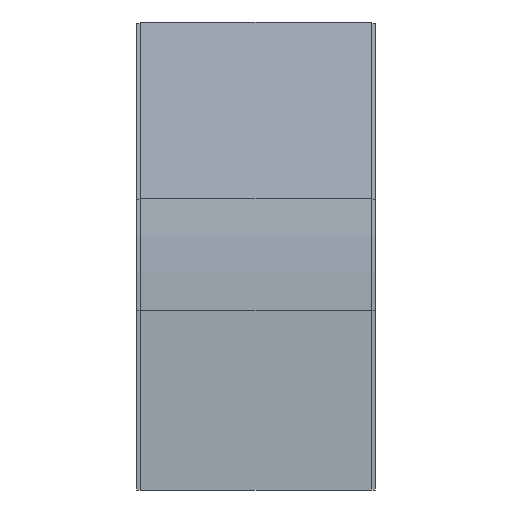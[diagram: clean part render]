
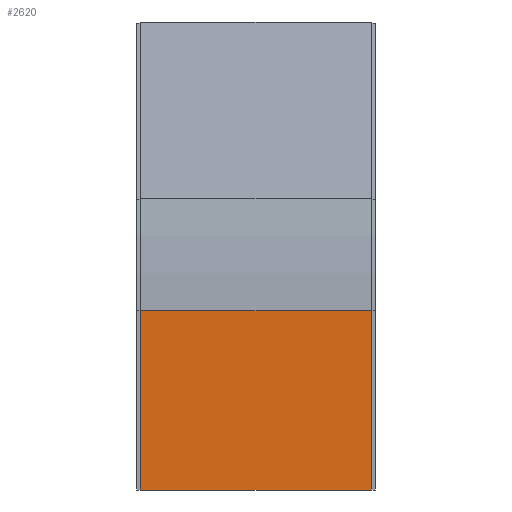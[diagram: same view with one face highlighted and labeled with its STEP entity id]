
A CAD part, front view. The second image highlights one B-rep face of the part: STEP entity #2620.
In plain terms, the highlighted planar face has unit normal (0, -1, 0).
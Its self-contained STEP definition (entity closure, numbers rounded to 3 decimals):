
#50 = EDGE_CURVE ( 'NONE', #2106, #1245, #174, .T. ) ;
#174 = LINE ( 'NONE', #1595, #2701 ) ;
#295 = FACE_OUTER_BOUND ( 'NONE', #3057, .T. ) ;
#333 = DIRECTION ( 'NONE',  ( 0., 0., -1. ) ) ;
#366 = CARTESIAN_POINT ( 'NONE',  ( -96.65, -42., 150. ) ) ;
#500 = AXIS2_PLACEMENT_3D ( 'NONE', #964, #1953, #2224 ) ;
#717 = VERTEX_POINT ( 'NONE', #805 ) ;
#764 = ORIENTED_EDGE ( 'NONE', *, *, #782, .T. ) ;
#782 = EDGE_CURVE ( 'NONE', #717, #1245, #2086, .T. ) ;
#799 = EDGE_CURVE ( 'NONE', #990, #2106, #2511, .T. ) ;
#805 = CARTESIAN_POINT ( 'NONE',  ( -96.65, -42., 150. ) ) ;
#964 = CARTESIAN_POINT ( 'NONE',  ( -96.65, -42., 150. ) ) ;
#982 = LINE ( 'NONE', #1115, #1594 ) ;
#990 = VERTEX_POINT ( 'NONE', #2750 ) ;
#1038 = DIRECTION ( 'NONE',  ( 0., 0., -1. ) ) ;
#1058 = DIRECTION ( 'NONE',  ( -1., 0., 0. ) ) ;
#1076 = ORIENTED_EDGE ( 'NONE', *, *, #1419, .T. ) ;
#1090 = CARTESIAN_POINT ( 'NONE',  ( 96.65, -42., 0. ) ) ;
#1115 = CARTESIAN_POINT ( 'NONE',  ( -96.65, -42., 150. ) ) ;
#1185 = VECTOR ( 'NONE', #333, 1000. ) ;
#1236 = CARTESIAN_POINT ( 'NONE',  ( -96.65, -42., 0. ) ) ;
#1245 = VERTEX_POINT ( 'NONE', #1236 ) ;
#1419 = EDGE_CURVE ( 'NONE', #990, #717, #982, .T. ) ;
#1594 = VECTOR ( 'NONE', #2841, 1000. ) ;
#1595 = CARTESIAN_POINT ( 'NONE',  ( -96.65, -42., 0. ) ) ;
#1693 = VECTOR ( 'NONE', #1038, 1000. ) ;
#1881 = ORIENTED_EDGE ( 'NONE', *, *, #50, .F. ) ;
#1953 = DIRECTION ( 'NONE',  ( 0., -1., 0. ) ) ;
#2070 = CARTESIAN_POINT ( 'NONE',  ( 96.65, -42., 150. ) ) ;
#2086 = LINE ( 'NONE', #366, #1185 ) ;
#2106 = VERTEX_POINT ( 'NONE', #1090 ) ;
#2191 = PLANE ( 'NONE',  #500 ) ;
#2224 = DIRECTION ( 'NONE',  ( 1., 0., 0. ) ) ;
#2511 = LINE ( 'NONE', #2070, #1693 ) ;
#2620 = ADVANCED_FACE ( 'NONE', ( #295 ), #2191, .T. ) ;
#2648 = ORIENTED_EDGE ( 'NONE', *, *, #799, .F. ) ;
#2701 = VECTOR ( 'NONE', #1058, 1000. ) ;
#2750 = CARTESIAN_POINT ( 'NONE',  ( 96.65, -42., 150. ) ) ;
#2841 = DIRECTION ( 'NONE',  ( -1., 0., 0. ) ) ;
#3057 = EDGE_LOOP ( 'NONE', ( #1881, #2648, #1076, #764 ) ) ;
